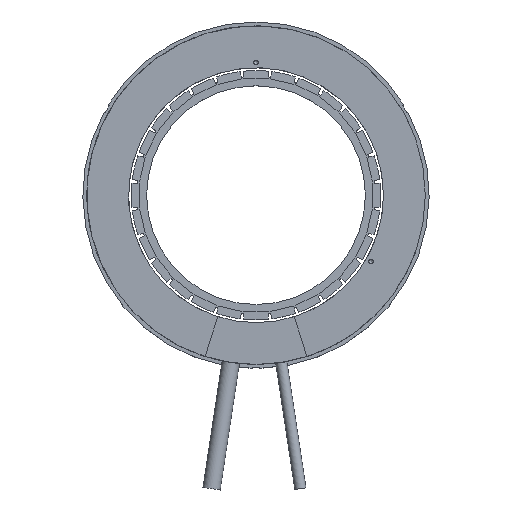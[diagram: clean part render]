
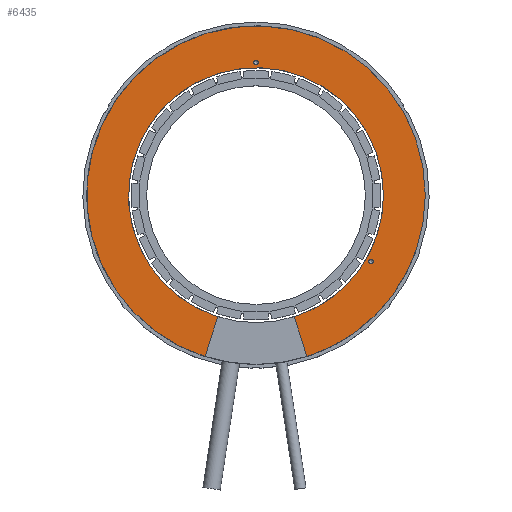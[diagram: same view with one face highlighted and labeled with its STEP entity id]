
A CAD part, top view. The second image highlights one B-rep face of the part: STEP entity #6435.
In plain terms, the highlighted planar face has unit normal (0, 0, 1).
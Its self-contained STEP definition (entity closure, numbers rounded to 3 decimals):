
#121=LINE('',#9267,#943);
#122=LINE('',#9268,#944);
#943=VECTOR('',#7401,1000.);
#944=VECTOR('',#7402,1000.);
#1789=ORIENTED_EDGE('',*,*,#3697,.T.);
#1790=ORIENTED_EDGE('',*,*,#3698,.T.);
#1791=ORIENTED_EDGE('',*,*,#3699,.F.);
#1792=ORIENTED_EDGE('',*,*,#3685,.T.);
#1793=ORIENTED_EDGE('',*,*,#3700,.F.);
#1794=ORIENTED_EDGE('',*,*,#3693,.F.);
#3685=EDGE_CURVE('',#4637,#4638,#5227,.T.);
#3693=EDGE_CURVE('',#4645,#4646,#5231,.T.);
#3697=EDGE_CURVE('',#4649,#4649,#5233,.T.);
#3698=EDGE_CURVE('',#4650,#4650,#5234,.T.);
#3699=EDGE_CURVE('',#4637,#4645,#121,.T.);
#3700=EDGE_CURVE('',#4646,#4638,#122,.T.);
#4637=VERTEX_POINT('',#9217);
#4638=VERTEX_POINT('',#9218);
#4645=VERTEX_POINT('',#9255);
#4646=VERTEX_POINT('',#9256);
#4649=VERTEX_POINT('',#9264);
#4650=VERTEX_POINT('',#9266);
#5227=CIRCLE('',#6832,65.);
#5231=CIRCLE('',#6838,48.95);
#5233=CIRCLE('',#6841,0.825);
#5234=CIRCLE('',#6842,0.825);
#5368=EDGE_LOOP('',(#1789));
#5369=EDGE_LOOP('',(#1790));
#5370=EDGE_LOOP('',(#1791,#1792,#1793,#1794));
#5754=FACE_BOUND('',#5368,.T.);
#5755=FACE_BOUND('',#5369,.T.);
#5756=FACE_BOUND('',#5370,.T.);
#6130=PLANE('',#6840);
#6435=ADVANCED_FACE('',(#5754,#5755,#5756),#6130,.T.);
#6832=AXIS2_PLACEMENT_3D('',#9216,#7375,#7376);
#6838=AXIS2_PLACEMENT_3D('',#9254,#7389,#7390);
#6840=AXIS2_PLACEMENT_3D('',#9262,#7395,#7396);
#6841=AXIS2_PLACEMENT_3D('',#9263,#7397,#7398);
#6842=AXIS2_PLACEMENT_3D('',#9265,#7399,#7400);
#7375=DIRECTION('',(0.,0.,1.));
#7376=DIRECTION('',(1.,0.,0.));
#7389=DIRECTION('',(0.,0.,1.));
#7390=DIRECTION('',(1.,0.,0.));
#7395=DIRECTION('',(0.,0.,1.));
#7396=DIRECTION('',(1.,0.,0.));
#7397=DIRECTION('',(0.,0.,-1.));
#7398=DIRECTION('',(0.,-1.,0.));
#7399=DIRECTION('',(0.,0.,-1.));
#7400=DIRECTION('',(0.,-1.,0.));
#7401=DIRECTION('',(-0.301,0.954,0.));
#7402=DIRECTION('',(-0.301,-0.954,0.));
#9216=CARTESIAN_POINT('',(0.,0.,17.));
#9217=CARTESIAN_POINT('',(19.546,-61.992,17.));
#9218=CARTESIAN_POINT('',(-19.546,-61.992,17.));
#9254=CARTESIAN_POINT('',(0.,0.,17.));
#9255=CARTESIAN_POINT('',(14.72,-46.684,17.));
#9256=CARTESIAN_POINT('',(-14.72,-46.684,17.));
#9262=CARTESIAN_POINT('',(48.95,0.,17.));
#9263=CARTESIAN_POINT('',(0.,51.,17.));
#9264=CARTESIAN_POINT('',(0.,50.175,17.));
#9265=CARTESIAN_POINT('',(44.167,-25.5,17.));
#9266=CARTESIAN_POINT('',(44.167,-26.325,17.));
#9267=CARTESIAN_POINT('',(14.72,-46.684,17.));
#9268=CARTESIAN_POINT('',(-14.72,-46.684,17.));
